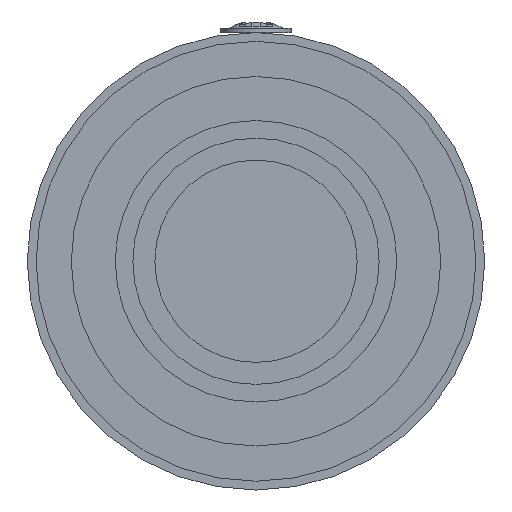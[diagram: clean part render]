
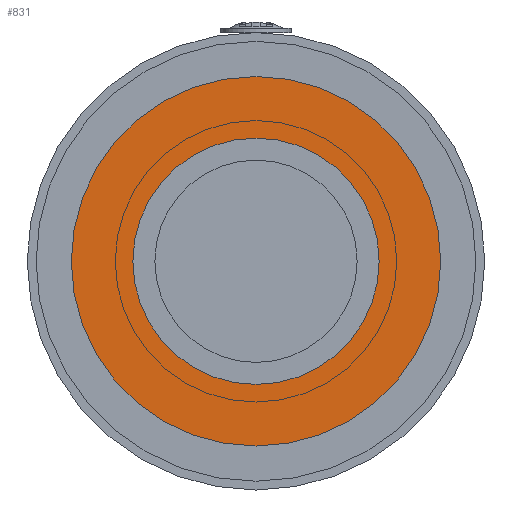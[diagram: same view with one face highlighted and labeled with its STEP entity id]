
A CAD part, front view. The second image highlights one B-rep face of the part: STEP entity #831.
In plain terms, the highlighted planar face has unit normal (0, -1, 0) as drawn and (0, 0, -1) by its records, which use the part's own axes.
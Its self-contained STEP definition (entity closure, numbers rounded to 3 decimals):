
#63=FACE_BOUND('',#285,.T.);
#70=PLANE('',#938);
#222=FACE_OUTER_BOUND('',#284,.T.);
#284=EDGE_LOOP('',(#617));
#285=EDGE_LOOP('',(#618));
#350=CIRCLE('',#929,21.);
#353=CIRCLE('',#933,14.);
#408=VERTEX_POINT('',#1365);
#411=VERTEX_POINT('',#1373);
#486=EDGE_CURVE('',#408,#408,#350,.T.);
#491=EDGE_CURVE('',#411,#411,#353,.T.);
#617=ORIENTED_EDGE('',*,*,#486,.F.);
#618=ORIENTED_EDGE('',*,*,#491,.T.);
#831=ADVANCED_FACE('',(#222,#63),#70,.T.);
#929=AXIS2_PLACEMENT_3D('',#1366,#1073,#1074);
#933=AXIS2_PLACEMENT_3D('',#1375,#1083,#1084);
#938=AXIS2_PLACEMENT_3D('',#1383,#1094,#1095);
#1073=DIRECTION('center_axis',(0.,0.,1.));
#1074=DIRECTION('ref_axis',(-1.,0.,0.));
#1083=DIRECTION('center_axis',(0.,0.,1.));
#1084=DIRECTION('ref_axis',(-1.,0.,0.));
#1094=DIRECTION('center_axis',(0.,0.,-1.));
#1095=DIRECTION('ref_axis',(-1.,0.,0.));
#1365=CARTESIAN_POINT('',(42.,119.959,-2.));
#1366=CARTESIAN_POINT('Origin',(21.,119.959,-2.));
#1373=CARTESIAN_POINT('',(35.,119.959,-2.));
#1375=CARTESIAN_POINT('Origin',(21.,119.959,-2.));
#1383=CARTESIAN_POINT('Origin',(21.,119.959,-2.));
